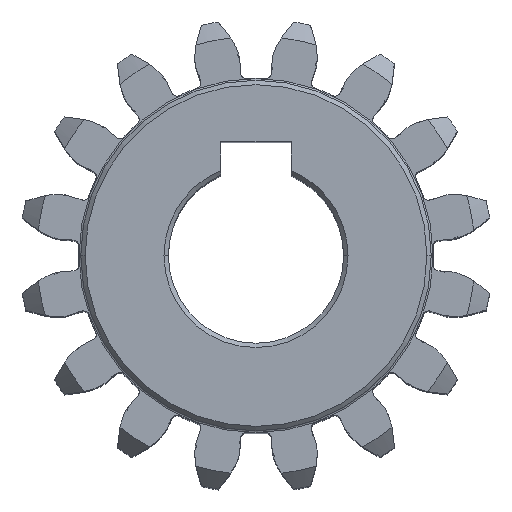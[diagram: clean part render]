
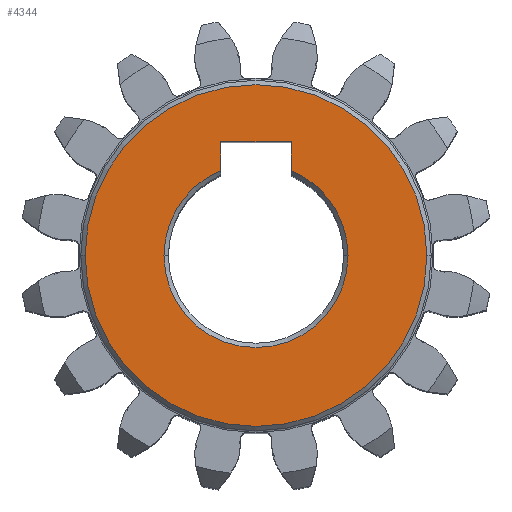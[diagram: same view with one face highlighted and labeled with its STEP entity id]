
A CAD part, top view. The second image highlights one B-rep face of the part: STEP entity #4344.
In plain terms, the highlighted planar face has unit normal (0, 0, 1).
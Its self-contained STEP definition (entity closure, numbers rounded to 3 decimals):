
#143 = EDGE_CURVE ( 'NONE', #1652, #8934, #7720, .T. ) ;
#226 = CIRCLE ( 'NONE', #2275, 5.25 ) ;
#610 = EDGE_LOOP ( 'NONE', ( #6275, #6430, #7453, #1502, #8092, #4268 ) ) ;
#956 = CARTESIAN_POINT ( 'NONE',  ( 2., 6.5, 15. ) ) ;
#998 = VECTOR ( 'NONE', #6291, 1000. ) ;
#1031 = CARTESIAN_POINT ( 'NONE',  ( 0., 0., 15. ) ) ;
#1061 = DIRECTION ( 'NONE',  ( 0., -1., 0. ) ) ;
#1139 = FACE_OUTER_BOUND ( 'NONE', #7484, .T. ) ;
#1439 = DIRECTION ( 'NONE',  ( 1., 0., 0. ) ) ;
#1502 = ORIENTED_EDGE ( 'NONE', *, *, #143, .T. ) ;
#1652 = VERTEX_POINT ( 'NONE', #3459 ) ;
#1655 = CIRCLE ( 'NONE', #8528, 5.25 ) ;
#1715 = ORIENTED_EDGE ( 'NONE', *, *, #7438, .T. ) ;
#1885 = DIRECTION ( 'NONE',  ( 1., 0., 0. ) ) ;
#2209 = DIRECTION ( 'NONE',  ( 1., 0., 0. ) ) ;
#2275 = AXIS2_PLACEMENT_3D ( 'NONE', #1031, #3403, #8628 ) ;
#2832 = EDGE_CURVE ( 'NONE', #7957, #6244, #4181, .T. ) ;
#2875 = EDGE_CURVE ( 'NONE', #5196, #2914, #226, .T. ) ;
#2903 = AXIS2_PLACEMENT_3D ( 'NONE', #7609, #8276, #2209 ) ;
#2914 = VERTEX_POINT ( 'NONE', #6362 ) ;
#3114 = AXIS2_PLACEMENT_3D ( 'NONE', #3426, #3373, #1885 ) ;
#3373 = DIRECTION ( 'NONE',  ( 0., 0., 1. ) ) ;
#3403 = DIRECTION ( 'NONE',  ( 0., 0., -1. ) ) ;
#3426 = CARTESIAN_POINT ( 'NONE',  ( 0., 0., 15. ) ) ;
#3441 = CARTESIAN_POINT ( 'NONE',  ( 0., 0., 15. ) ) ;
#3459 = CARTESIAN_POINT ( 'NONE',  ( -5.25, 0., 15. ) ) ;
#3597 = CARTESIAN_POINT ( 'NONE',  ( 9.75, 0., 15. ) ) ;
#3699 = AXIS2_PLACEMENT_3D ( 'NONE', #8193, #6023, #1439 ) ;
#3775 = LINE ( 'NONE', #5228, #6243 ) ;
#3900 = DIRECTION ( 'NONE',  ( 1., 0., 0. ) ) ;
#4060 = DIRECTION ( 'NONE',  ( 0., 0., -1. ) ) ;
#4099 = CARTESIAN_POINT ( 'NONE',  ( -9.75, 0., 15. ) ) ;
#4181 = CIRCLE ( 'NONE', #2903, 9.75 ) ;
#4268 = ORIENTED_EDGE ( 'NONE', *, *, #8723, .T. ) ;
#4344 = ADVANCED_FACE ( 'NONE', ( #1139, #5719 ), #9398, .T. ) ;
#4367 = CARTESIAN_POINT ( 'NONE',  ( -2., 4.854, 15. ) ) ;
#4557 = VERTEX_POINT ( 'NONE', #6113 ) ;
#4927 = EDGE_CURVE ( 'NONE', #2914, #1652, #1655, .T. ) ;
#5139 = AXIS2_PLACEMENT_3D ( 'NONE', #9160, #7064, #3900 ) ;
#5196 = VERTEX_POINT ( 'NONE', #7843 ) ;
#5228 = CARTESIAN_POINT ( 'NONE',  ( -2., 3.5, 15. ) ) ;
#5719 = FACE_BOUND ( 'NONE', #610, .T. ) ;
#6023 = DIRECTION ( 'NONE',  ( 0., 0., -1. ) ) ;
#6113 = CARTESIAN_POINT ( 'NONE',  ( -2., 6.5, 15. ) ) ;
#6243 = VECTOR ( 'NONE', #6787, 1000. ) ;
#6244 = VERTEX_POINT ( 'NONE', #3597 ) ;
#6275 = ORIENTED_EDGE ( 'NONE', *, *, #6757, .T. ) ;
#6291 = DIRECTION ( 'NONE',  ( 1., 0., 0. ) ) ;
#6362 = CARTESIAN_POINT ( 'NONE',  ( 5.25, 0., 15. ) ) ;
#6430 = ORIENTED_EDGE ( 'NONE', *, *, #2875, .T. ) ;
#6757 = EDGE_CURVE ( 'NONE', #7150, #5196, #9497, .T. ) ;
#6787 = DIRECTION ( 'NONE',  ( 0., 1., 0. ) ) ;
#7064 = DIRECTION ( 'NONE',  ( 0., 0., 1. ) ) ;
#7107 = VECTOR ( 'NONE', #1061, 1000. ) ;
#7150 = VERTEX_POINT ( 'NONE', #8373 ) ;
#7438 = EDGE_CURVE ( 'NONE', #6244, #7957, #9460, .T. ) ;
#7453 = ORIENTED_EDGE ( 'NONE', *, *, #4927, .T. ) ;
#7484 = EDGE_LOOP ( 'NONE', ( #8261, #1715 ) ) ;
#7609 = CARTESIAN_POINT ( 'NONE',  ( 0., 0., 15. ) ) ;
#7720 = CIRCLE ( 'NONE', #3699, 5.25 ) ;
#7843 = CARTESIAN_POINT ( 'NONE',  ( 2., 4.854, 15. ) ) ;
#7957 = VERTEX_POINT ( 'NONE', #4099 ) ;
#8092 = ORIENTED_EDGE ( 'NONE', *, *, #8689, .T. ) ;
#8193 = CARTESIAN_POINT ( 'NONE',  ( 0., 0., 15. ) ) ;
#8261 = ORIENTED_EDGE ( 'NONE', *, *, #2832, .T. ) ;
#8276 = DIRECTION ( 'NONE',  ( 0., 0., 1. ) ) ;
#8373 = CARTESIAN_POINT ( 'NONE',  ( 2., 6.5, 15. ) ) ;
#8528 = AXIS2_PLACEMENT_3D ( 'NONE', #3441, #4060, #9594 ) ;
#8628 = DIRECTION ( 'NONE',  ( 1., 0., 0. ) ) ;
#8689 = EDGE_CURVE ( 'NONE', #8934, #4557, #3775, .T. ) ;
#8723 = EDGE_CURVE ( 'NONE', #4557, #7150, #9198, .T. ) ;
#8934 = VERTEX_POINT ( 'NONE', #4367 ) ;
#9160 = CARTESIAN_POINT ( 'NONE',  ( 0., 0., 15. ) ) ;
#9198 = LINE ( 'NONE', #956, #998 ) ;
#9398 = PLANE ( 'NONE',  #3114 ) ;
#9406 = CARTESIAN_POINT ( 'NONE',  ( 2., 3.5, 15. ) ) ;
#9460 = CIRCLE ( 'NONE', #5139, 9.75 ) ;
#9497 = LINE ( 'NONE', #9406, #7107 ) ;
#9594 = DIRECTION ( 'NONE',  ( 1., 0., 0. ) ) ;
